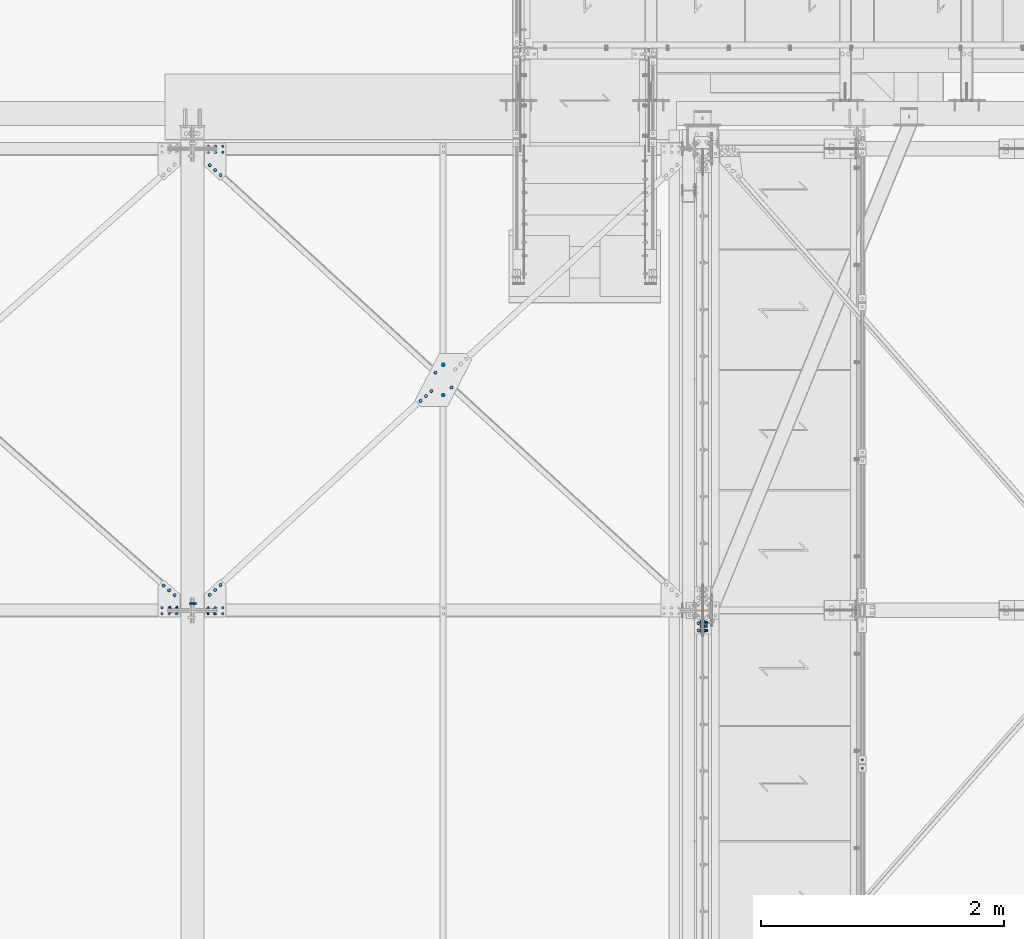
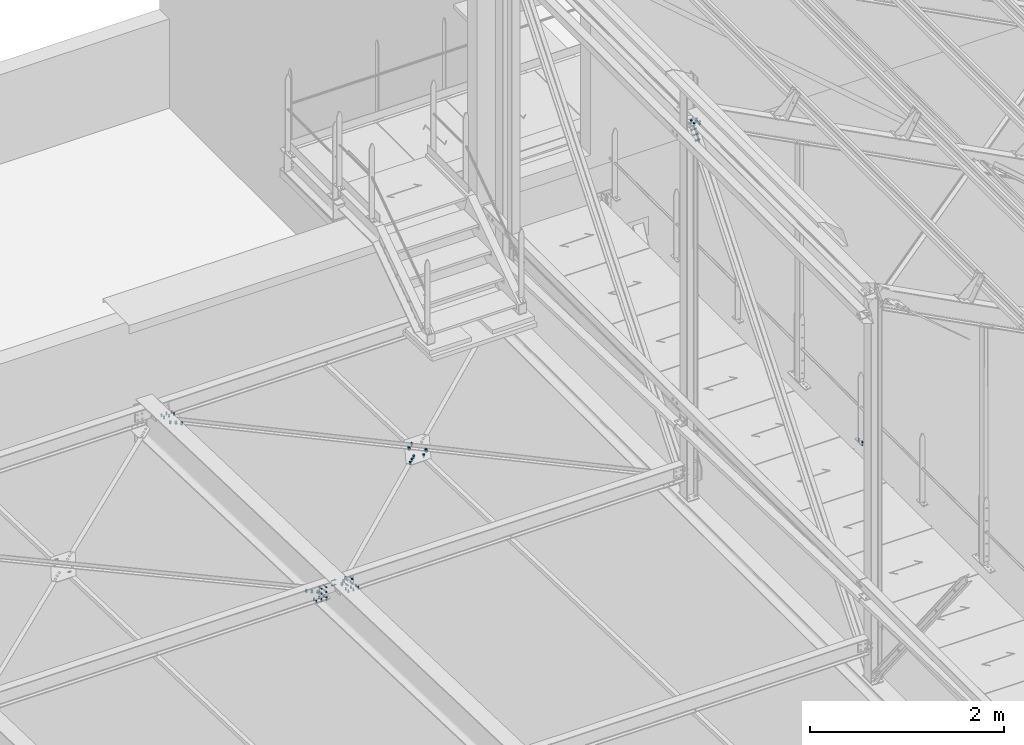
# One storey, part 154 of 362: 15 mechanical fasteners.
"""IFC2X3 building model written with IfcOpenShell, lengths in millimetres."""

import ifcopenshell
import ifcopenshell.guid

model = None  # the IFC model being written
_history = None  # IfcOwnerHistory: only IFC2X3 demands one
_inside = {}  # id of a spatial element -> (the spatial element, [elements in it])
_under = {}  # id of a project, library or spatial element -> (it, [spatial elements below it])
_declared = {}  # id of a project -> (the project, [libraries it declares])
_typed = {}  # id of a type object -> (the type object, [elements of that type])
_made_of = {}  # id of a material, layer set ... -> (it, [elements and type objects made of it])


def new_model(schema):
    """Start an empty IFC model of exactly this schema.

    Asked for "IFC4X3", IfcOpenShell would pick the latest addendum, in which some entities
    have other attributes; the version numbers below select the first issue.
    IFC2X3 requires an IfcOwnerHistory on every rooted entity: one is made here for all.
    """
    global model, _history
    if schema == "IFC4X3":
        model = ifcopenshell.file(schema_version=(4, 3, 0, 0))
    else:
        model = ifcopenshell.file(schema=schema)
    _inside.clear()
    _under.clear()
    _declared.clear()
    _typed.clear()
    _made_of.clear()
    _history = None
    if model.schema == "IFC2X3":
        org = make("IfcOrganization", Name="unknown")
        user = make(
            "IfcPersonAndOrganization",
            ThePerson=make("IfcPerson", FamilyName="unknown"),
            TheOrganization=org,
        )
        app = make(
            "IfcApplication",
            ApplicationDeveloper=org,
            Version="unknown",
            ApplicationFullName="unknown",
            ApplicationIdentifier="unknown",
        )
        _history = make(
            "IfcOwnerHistory",
            OwningUser=user,
            OwningApplication=app,
            ChangeAction="ADDED",
            CreationDate=0,
        )
    return model


def make(cls, **values):
    """One entity of the class cls with the attributes given. An attribute that is None is left unset."""
    return model.create_entity(
        cls, **{name: value for name, value in values.items() if value is not None}
    )


def rooted(cls, **values):
    """An entity with a GlobalId (a new one), such as an element, a storey or a relation."""
    return make(cls, GlobalId=ifcopenshell.guid.new(), OwnerHistory=_history, **values)


def si_unit(unit_type, name, prefix=None):
    """IfcSIUnit, for example si_unit("LENGTHUNIT", "METRE", prefix="MILLI")."""
    return make("IfcSIUnit", UnitType=unit_type, Prefix=prefix, Name=name)


def assignment(units):
    """IfcUnitAssignment: the units of a project."""
    return None if units is None else make("IfcUnitAssignment", Units=units)


def point(xyz):
    """IfcCartesianPoint."""
    return None if xyz is None else make("IfcCartesianPoint", Coordinates=xyz)


def direction(xyz):
    """IfcDirection."""
    return None if xyz is None else make("IfcDirection", DirectionRatios=xyz)


def frame(location, z_axis=None, x_axis=None):
    """IfcAxis2Placement3D, a coordinate frame: its origin and axes. An axis left out is left unset."""
    return make(
        "IfcAxis2Placement3D",
        Location=point(location),
        Axis=direction(z_axis),
        RefDirection=direction(x_axis),
    )


def frame_2d(location, x_axis=None):
    """IfcAxis2Placement2D, a coordinate frame in the plane: its origin and x axis."""
    return make(
        "IfcAxis2Placement2D", Location=point(location), RefDirection=direction(x_axis)
    )


def origin_with_axes():
    """The frame at (0, 0, 0) with the z axis (0, 0, 1) and the x axis (1, 0, 0) written out."""
    return frame((0.0, 0.0, 0.0), z_axis=(0.0, 0.0, 1.0), x_axis=(1.0, 0.0, 0.0))


def origin_2d_with_axis():
    """The frame at (0, 0) in the plane with the x axis (1, 0) written out."""
    return frame_2d((0.0, 0.0), x_axis=(1.0, 0.0))


def place(relative_to, where):
    """IfcLocalPlacement: puts the frame where relative to a parent placement (None: the world)."""
    return make(
        "IfcLocalPlacement", PlacementRelTo=relative_to, RelativePlacement=where
    )


def context(
    kind, dimensions, precision=None, world=None, true_north=None, identifier=None
):
    """IfcGeometricRepresentationContext, for example the 3D "Model" context."""
    return make(
        "IfcGeometricRepresentationContext",
        ContextIdentifier=identifier,
        ContextType=kind,
        CoordinateSpaceDimension=dimensions,
        Precision=precision,
        WorldCoordinateSystem=world,
        TrueNorth=true_north,
    )


def subcontext(parent, identifier, kind, view, scale=None):
    """IfcGeometricRepresentationSubContext, for example "Body" below "Model"."""
    return make(
        "IfcGeometricRepresentationSubContext",
        ContextIdentifier=identifier,
        ContextType=kind,
        ParentContext=parent,
        TargetScale=scale,
        TargetView=view,
    )


def project(units=None, contexts=None):
    """IfcProject with its units and contexts."""
    return rooted(
        "IfcProject",
        Name="project",
        RepresentationContexts=contexts,
        UnitsInContext=assignment(units),
    )


def spatial(cls, under=None, at=None, **own):
    """A site, building, storey or space (cls), placed at a placement, below another one or the project."""
    s = rooted(cls, ObjectPlacement=at, **own)
    if under is not None:
        _under.setdefault(under.id(), (under, []))[1].append(s)
    return s


def polyline(points):
    """IfcPolyline through the points."""
    return make("IfcPolyline", Points=[point(p) for p in points])


def profile(cls, at=None, kind="AREA", **sizes):
    """A parametric profile (cls). Its sizes go by their IFC names, for example OverallWidth=200.0."""
    return make(cls, ProfileType=kind, Position=at, **sizes)


def circle(**sizes):
    """IfcCircleProfileDef."""
    return profile("IfcCircleProfileDef", **sizes)


def outline(outer, holes=None, kind="AREA"):
    """IfcArbitraryClosedProfileDef: a profile drawn as a closed curve; with holes, ...WithVoids."""
    if holes is None:
        return make("IfcArbitraryClosedProfileDef", ProfileType=kind, OuterCurve=outer)
    return make(
        "IfcArbitraryProfileDefWithVoids",
        ProfileType=kind,
        OuterCurve=outer,
        InnerCurves=holes,
    )


def extrude(swept, where, along, depth):
    """IfcExtrudedAreaSolid: the profile swept, set in the frame where, extruded along a direction by depth."""
    return make(
        "IfcExtrudedAreaSolid",
        SweptArea=swept,
        Position=where,
        ExtrudedDirection=direction(along),
        Depth=depth,
    )


def shape(context_of_items, identifier, shape_type, items):
    """IfcShapeRepresentation: the items that make up one representation, for example the "Body"."""
    return make(
        "IfcShapeRepresentation",
        ContextOfItems=context_of_items,
        RepresentationIdentifier=identifier,
        RepresentationType=shape_type,
        Items=items,
    )


def source(mapping_origin, context_of_items, identifier, shape_type, items):
    """IfcRepresentationMap: a shape defined once, which mapped items show again and again."""
    return make(
        "IfcRepresentationMap",
        MappingOrigin=mapping_origin,
        MappedRepresentation=shape(context_of_items, identifier, shape_type, items),
    )


def transform(
    local_origin,
    x_axis=None,
    y_axis=None,
    z_axis=None,
    scale=None,
    scale2=None,
    scale3=None,
    uniform=True,
):
    """IfcCartesianTransformationOperator3D, or its non-uniform kind. x_axis, y_axis, z_axis: its Axis1, 2, 3."""
    if uniform:
        return make(
            "IfcCartesianTransformationOperator3D",
            Axis1=direction(x_axis),
            Axis2=direction(y_axis),
            LocalOrigin=point(local_origin),
            Scale=scale,
            Axis3=direction(z_axis),
        )
    return make(
        "IfcCartesianTransformationOperator3DnonUniform",
        Axis1=direction(x_axis),
        Axis2=direction(y_axis),
        LocalOrigin=point(local_origin),
        Scale=scale,
        Axis3=direction(z_axis),
        Scale2=scale2,
        Scale3=scale3,
    )


def mapped(mapping_source, mapping_target):
    """IfcMappedItem: shows the shape of a source again, moved by a transform."""
    return make(
        "IfcMappedItem", MappingSource=mapping_source, MappingTarget=mapping_target
    )


def material(Name=None, Category=None):
    """IfcMaterial."""
    return make("IfcMaterial", Name=Name, Category=Category)


def made_of(thing, what):
    """Note that an element or type object is made of a material, layer set ...; save() writes the relation."""
    if what is not None:
        _made_of.setdefault(what.id(), (what, []))[1].append(thing)
    return thing


def type_object(cls, material=None, **own):
    """A type object (cls), such as IfcWallType, which elements share."""
    return made_of(rooted(cls, **own), material)


def element(
    cls,
    number,
    at=None,
    inside=None,
    cuts=None,
    type_object=None,
    material=None,
    context=None,
    identifier="Body",
    shape_type=None,
    held_by="IfcProductDefinitionShape",
    body=None,
    shapes=None,
    **own,
):
    """One element of the class cls, such as IfcWall. Its Tag is "e" and its number.

    at: its placement. inside: the storey or other place that contains it. cuts: it is an
    opening in that element (IfcRelVoidsElement). A single representation is given by context,
    identifier, shape_type and body (its items); several are given by shapes. held_by: the class
    of the entity that holds the representations. save() writes the other relations.
    """
    e = rooted(cls, Tag="e%d" % number, ObjectPlacement=at, **own)
    if body is not None:
        shapes = [shape(context, identifier, shape_type, body)]
    if shapes is not None:
        e.Representation = make(held_by, Representations=shapes)
    if inside is not None:
        _inside.setdefault(inside.id(), (inside, []))[1].append(e)
    if cuts is not None:
        rooted(
            "IfcRelVoidsElement", RelatingBuildingElement=cuts, RelatedOpeningElement=e
        )
    if type_object is not None:
        _typed.setdefault(type_object.id(), (type_object, []))[1].append(e)
    return made_of(e, material)


def aggregate(whole, parts):
    """IfcRelAggregates: a whole, such as a stair, and the parts it consists of."""
    return rooted("IfcRelAggregates", RelatingObject=whole, RelatedObjects=parts)


def save(model, path):
    """Write the relations noted so far, then the file.

    IfcRelAggregates (storeys below a building ...), IfcRelContainedInSpatialStructure (elements
    in a storey), IfcRelDefinesByType, IfcRelAssociatesMaterial and IfcRelDeclares: one each for
    every whole, place, type object, material and project.
    """
    for whole, parts in _under.values():
        aggregate(whole, parts)
    for where, things in _inside.values():
        rooted(
            "IfcRelContainedInSpatialStructure",
            RelatedElements=things,
            RelatingStructure=where,
        )
    for kind, things in _typed.values():
        rooted("IfcRelDefinesByType", RelatedObjects=things, RelatingType=kind)
    for what, things in _made_of.values():
        rooted("IfcRelAssociatesMaterial", RelatedObjects=things, RelatingMaterial=what)
    for by, libraries in _declared.values():
        rooted("IfcRelDeclares", RelatingContext=by, RelatedDefinitions=libraries)
    model.write(path)


model = new_model("IFC2X3")

# Units and contexts
model_context = context("Model", 3, precision=1e-05, world=origin_with_axes())
body_context = subcontext(model_context, "Body", "Model", "MODEL_VIEW")
ifc_project = project(units=[si_unit("LENGTHUNIT", "METRE", prefix="MILLI"), si_unit("AREAUNIT", "SQUARE_METRE"), si_unit("VOLUMEUNIT", "CUBIC_METRE"), si_unit("MASSUNIT", "GRAM", prefix="KILO"), si_unit("TIMEUNIT", "SECOND"), si_unit("PLANEANGLEUNIT", "RADIAN"), si_unit("SOLIDANGLEUNIT", "STERADIAN"), si_unit("THERMODYNAMICTEMPERATUREUNIT", "DEGREE_CELSIUS"), si_unit("LUMINOUSINTENSITYUNIT", "LUMEN")], contexts=[model_context])

# Site, building, storey
site_placement = place(None, origin_with_axes())
site = spatial("IfcSite", under=ifc_project, at=site_placement, Name="Undefined", CompositionType="ELEMENT")
building_placement = place(site_placement, origin_with_axes())
building = spatial("IfcBuilding", under=site, at=building_placement, Name="Undefined", CompositionType="ELEMENT")
storey_placement = place(building_placement, origin_with_axes())
storey = spatial("IfcBuildingStorey", under=building, at=storey_placement, Name="Undefined", CompositionType="ELEMENT", Elevation=0.0)

# Mechanical fasteners
ifc_material = material(Name="8.8-SB-ZINGUE")
mechanical_fastener_type = type_object("IfcMechanicalFastenerType", Name="Bolt assembly")
shared_shape_1 = source(origin_with_axes(), body_context, "Body", "SweptSolid", [
    extrude(circle(Radius=9.0, at=origin_2d_with_axis()), frame((0.0, -10.9000000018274, 0.0), z_axis=(0.0, 1.0, 0.0), x_axis=(1.0, 0.0, 0.0)), (0.0, 0.0, 1.0), 6.0),
    extrude(circle(Radius=9.0, at=origin_2d_with_axis()), frame((0.0, 4.9000000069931, 0.0), z_axis=(0.0, 1.0, 0.0), x_axis=(1.0, 0.0, 0.0)), (0.0, 0.0, 1.0), 6.1),
    extrude(circle(Radius=9.0, at=origin_2d_with_axis()), frame((0.0, -3.99999923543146, 0.0), z_axis=(0.0, 1.0, 0.0), x_axis=(1.0, 0.0, 0.0)), (0.0, 0.0, 1.0), 8.0),
    extrude(outline(polyline([(13.85640646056, 0.0), (6.92820323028, 12.0000000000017), (-6.92820323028, 12.0000000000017), (-13.85640646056, 0.0), (-6.92820323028, -12.0000000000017), (6.92820323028, -12.0000000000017), (13.85640646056, 0.0)])), frame((0.0, -21.5600000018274, 0.0), z_axis=(0.0, 1.0, 0.0), x_axis=(1.0, 0.0, 0.0)), (0.0, 0.0, 1.0), 10.56),
    extrude(circle(Radius=8.0, at=origin_2d_with_axis()), frame((0.0, -11.0000000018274, 0.0), z_axis=(0.0, 1.0, 0.0), x_axis=(1.0, 0.0, 0.0)), (0.0, 0.0, 1.0), 50.0),
    extrude(outline(polyline([(15.3344231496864, 0.0), (7.6672115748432, 13.2800000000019), (-7.6672115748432, 13.2800000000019), (-15.3344231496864, 0.0), (-7.6672115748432, -13.2800000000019), (7.6672115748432, -13.2800000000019), (15.3344231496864, 0.0)])), frame((0.0, 11.0000000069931, 0.0), z_axis=(0.0, 1.0, 0.0), x_axis=(1.0, 0.0, 0.0)), (0.0, 0.0, 1.0), 10.56),
])
mechanical_fastener_1_placement = place(storey_placement, frame((12680.0, 11306.7393709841, 11919.5161497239), z_axis=(0.0, -0.783225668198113, 0.621737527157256), x_axis=(0.0, -0.621737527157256, -0.783225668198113)))
element("IfcMechanicalFastener", 1, at=mechanical_fastener_1_placement, inside=storey, type_object=mechanical_fastener_type, material=ifc_material, Name="Bolt assembly", NominalDiameter=16.0, NominalLength=50.0, context=body_context, shape_type="MappedRepresentation", body=[
    mapped(shared_shape_1, transform((0.0, 0.0, 0.0))),
    mapped(shared_shape_1, transform((60.0, 0.0, 0.0))),
    mapped(shared_shape_1, transform((120.0, 0.0, 0.0))),
])
shared_shape_2 = source(origin_with_axes(), body_context, "Body", "SweptSolid", [
    extrude(circle(Radius=9.0, at=origin_2d_with_axis()), frame((0.0, -4.89677993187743, 0.0), z_axis=(0.0, 1.0, 0.0), x_axis=(1.0, 0.0, 0.0)), (0.0, 0.0, 1.0), 5.0),
    extrude(circle(Radius=9.0, at=origin_2d_with_axis()), frame((0.0, -0.100011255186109, 0.0), z_axis=(0.0, 1.0, 0.0), x_axis=(1.0, 0.0, 0.0)), (0.0, 0.0, 1.0), 6.1),
    extrude(outline(polyline([(13.85640646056, 0.0), (6.92820323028, 12.0000000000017), (-6.92820323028, 12.0000000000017), (-13.85640646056, 0.0), (-6.92820323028, -12.0000000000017), (6.92820323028, -12.0000000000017), (13.85640646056, 0.0)])), frame((0.0, -15.5567799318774, 0.0), z_axis=(0.0, 1.0, 0.0), x_axis=(1.0, 0.0, 0.0)), (0.0, 0.0, 1.0), 10.56),
    extrude(circle(Radius=8.0, at=origin_2d_with_axis()), frame((0.0, -4.99677993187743, 0.0), z_axis=(0.0, 1.0, 0.0), x_axis=(1.0, 0.0, 0.0)), (0.0, 0.0, 1.0), 30.0),
    extrude(outline(polyline([(15.3344231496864, 0.0), (7.6672115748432, 13.2800000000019), (-7.6672115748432, 13.2800000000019), (-15.3344231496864, 0.0), (-7.6672115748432, -13.2800000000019), (7.6672115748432, -13.2800000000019), (15.3344231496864, 0.0)])), frame((0.0, 6.0, 0.0), z_axis=(0.0, 1.0, 0.0), x_axis=(1.0, 0.0, 0.0)), (0.0, 0.0, 1.0), 10.56),
])
mechanical_fastener_2_placement = place(storey_placement, frame((8333.90852928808, 11525.9582901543, 7487.68503665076), z_axis=(-0.662411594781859, -0.748770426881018, 0.023531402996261), x_axis=(-0.749140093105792, 0.662084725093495, -0.0208071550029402)))
element("IfcMechanicalFastener", 2, at=mechanical_fastener_2_placement, inside=storey, type_object=mechanical_fastener_type, material=ifc_material, Name="Bolt assembly", NominalDiameter=16.0, NominalLength=30.0, context=body_context, shape_type="MappedRepresentation", body=[
    mapped(shared_shape_2, transform((0.0, 0.0, 0.0))),
    mapped(shared_shape_2, transform((60.0, 0.0, 0.0))),
    mapped(shared_shape_2, transform((120.0, 0.0, 0.0))),
])
shared_shape_3 = source(origin_with_axes(), body_context, "Body", "SweptSolid", [
    extrude(circle(Radius=7.0, at=origin_2d_with_axis()), frame((0.0, -8.3982731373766, 0.0), z_axis=(0.0, 1.0, 0.0), x_axis=(1.0, 0.0, 0.0)), (0.0, 0.0, 1.0), 8.5),
    extrude(circle(Radius=7.0, at=origin_2d_with_axis()), frame((0.0, -0.100011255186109, 0.0), z_axis=(0.0, 1.0, 0.0), x_axis=(1.0, 0.0, 0.0)), (0.0, 0.0, 1.0), 6.1),
    extrude(outline(polyline([(10.39230484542, 0.0), (5.19615242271, 9.00000000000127), (-5.19615242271, 9.00000000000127), (-10.39230484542, 0.0), (-5.19615242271, -9.00000000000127), (5.19615242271, -9.00000000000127), (10.39230484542, 0.0)])), frame((0.0, -16.4182731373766, 0.0), z_axis=(0.0, 1.0, 0.0), x_axis=(1.0, 0.0, 0.0)), (0.0, 0.0, 1.0), 7.92),
    extrude(circle(Radius=6.0, at=origin_2d_with_axis()), frame((0.0, -8.4982731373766, 0.0), z_axis=(0.0, 1.0, 0.0), x_axis=(1.0, 0.0, 0.0)), (0.0, 0.0, 1.0), 30.0),
    extrude(outline(polyline([(11.5008173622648, 0.0), (5.7504086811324, 9.96000000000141), (-5.7504086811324, 9.96000000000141), (-11.5008173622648, 0.0), (-5.7504086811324, -9.96000000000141), (5.7504086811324, -9.96000000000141), (11.5008173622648, 0.0)])), frame((0.0, 6.0, 0.0), z_axis=(0.0, 1.0, 0.0), x_axis=(1.0, 0.0, 0.0)), (0.0, 0.0, 1.0), 7.92),
])
mechanical_fastener_3_placement = place(storey_placement, frame((8610.0000069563, 11396.8549319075, 7491.74233248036), z_axis=(3.14103090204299e-11, 0.999506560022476, -0.0314107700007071), x_axis=(1.0, 0.0, 0.0)))
element("IfcMechanicalFastener", 3, at=mechanical_fastener_3_placement, inside=storey, type_object=mechanical_fastener_type, material=ifc_material, Name="Bolt assembly", NominalDiameter=12.0, NominalLength=30.0, context=body_context, shape_type="MappedRepresentation", body=[
    mapped(shared_shape_3, transform((0.0, 0.0, -25.0))),
    mapped(shared_shape_3, transform((59.9999999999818, -8.18545231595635e-12, -25.0000000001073))),
    mapped(shared_shape_3, transform((119.999999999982, -1.72803993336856e-11, -25.0000000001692))),
    mapped(shared_shape_3, transform((0.0, 0.0, 25.0))),
    mapped(shared_shape_3, transform((60.00000000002, -1.00044417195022e-11, 24.9999999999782))),
    mapped(shared_shape_3, transform((120.00000000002, -1.90993887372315e-11, 24.9999999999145))),
])
shared_shape_4 = source(origin_with_axes(), body_context, "Body", "SweptSolid", [
    extrude(circle(Radius=7.0, at=origin_2d_with_axis()), frame((0.0, -8.40001950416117, 0.0), z_axis=(0.0, 1.0, 0.0), x_axis=(1.0, 0.0, 0.0)), (0.0, 0.0, 1.0), 8.5),
    extrude(circle(Radius=7.0, at=origin_2d_with_axis()), frame((0.0, -0.100011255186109, 0.0), z_axis=(0.0, 1.0, 0.0), x_axis=(1.0, 0.0, 0.0)), (0.0, 0.0, 1.0), 6.1),
    extrude(outline(polyline([(10.39230484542, 0.0), (5.19615242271, 9.00000000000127), (-5.19615242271, 9.00000000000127), (-10.39230484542, 0.0), (-5.19615242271, -9.00000000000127), (5.19615242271, -9.00000000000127), (10.39230484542, 0.0)])), frame((0.0, -16.4200195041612, 0.0), z_axis=(0.0, 1.0, 0.0), x_axis=(1.0, 0.0, 0.0)), (0.0, 0.0, 1.0), 7.92),
    extrude(circle(Radius=6.0, at=origin_2d_with_axis()), frame((0.0, -8.5, 0.0), z_axis=(0.0, 1.0, 0.0), x_axis=(1.0, 0.0, 0.0)), (0.0, 0.0, 1.0), 30.0),
    extrude(outline(polyline([(11.5008173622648, 0.0), (5.7504086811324, 9.96000000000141), (-5.7504086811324, 9.96000000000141), (-11.5008173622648, 0.0), (-5.7504086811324, -9.96000000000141), (5.7504086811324, -9.96000000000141), (11.5008173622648, 0.0)])), frame((0.0, 6.0, 0.0), z_axis=(0.0, 1.0, 0.0), x_axis=(1.0, 0.0, 0.0)), (0.0, 0.0, 1.0), 7.92),
])
mechanical_fastener_4_placement = place(storey_placement, frame((8610.0000069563, 15196.8588775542, 7372.32065103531), z_axis=(3.14103090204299e-11, 0.999506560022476, -0.0314107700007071), x_axis=(1.0, 0.0, 0.0)))
element("IfcMechanicalFastener", 4, at=mechanical_fastener_4_placement, inside=storey, type_object=mechanical_fastener_type, material=ifc_material, Name="Bolt assembly", NominalDiameter=12.0, NominalLength=30.0, context=body_context, shape_type="MappedRepresentation", body=[
    mapped(shared_shape_4, transform((0.0, 0.0, 25.0))),
    mapped(shared_shape_4, transform((60.00000000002, -1.00044417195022e-11, 24.9999999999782))),
    mapped(shared_shape_4, transform((120.00000000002, -1.90993887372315e-11, 24.9999999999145))),
    mapped(shared_shape_4, transform((0.0, 0.0, -25.0))),
    mapped(shared_shape_4, transform((59.9999999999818, -8.18545231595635e-12, -25.0000000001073))),
    mapped(shared_shape_4, transform((119.999999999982, -1.72803993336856e-11, -25.0000000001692))),
])
shared_shape_5 = source(origin_with_axes(), body_context, "Body", "SweptSolid", [
    extrude(circle(Radius=9.0, at=origin_2d_with_axis()), frame((0.0, 5.90507997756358, 0.0), z_axis=(0.0, 1.0, 0.0), x_axis=(1.0, 0.0, 0.0)), (0.0, 0.0, 1.0), 5.1),
    extrude(circle(Radius=9.0, at=origin_2d_with_axis()), frame((0.0, 0.1, 0.0), z_axis=(0.0, 1.0, 0.0), x_axis=(1.0, 0.0, 0.0)), (0.0, 0.0, 1.0), 6.0),
    extrude(outline(polyline([(13.85640646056, 0.0), (6.92820323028, 12.0000000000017), (-6.92820323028, 12.0000000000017), (-13.85640646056, 0.0), (-6.92820323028, -12.0000000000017), (6.92820323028, -12.0000000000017), (13.85640646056, 0.0)])), frame((0.0, -10.5600019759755, 0.0), z_axis=(0.0, 1.0, 0.0), x_axis=(1.0, 0.0, 0.0)), (0.0, 0.0, 1.0), 10.56),
    extrude(circle(Radius=8.0, at=origin_2d_with_axis()), frame((0.0, 0.0, 0.0), z_axis=(0.0, 1.0, 0.0), x_axis=(1.0, 0.0, 0.0)), (0.0, 0.0, 1.0), 30.0),
    extrude(outline(polyline([(15.3344231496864, 0.0), (7.6672115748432, 13.2800000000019), (-7.6672115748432, 13.2800000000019), (-15.3344231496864, 0.0), (-7.6672115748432, -13.2800000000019), (7.6672115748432, -13.2800000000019), (15.3344231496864, 0.0)])), frame((0.0, 11.005079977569, 0.0), z_axis=(0.0, 1.0, 0.0), x_axis=(1.0, 0.0, 0.0)), (0.0, 0.0, 1.0), 10.56),
])
mechanical_fastener_5_placement = place(storey_placement, frame((8623.52764296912, 11528.8000645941, 7487.59572898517), z_axis=(-0.676965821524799, 0.735651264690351, -0.0231191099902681), x_axis=(0.736014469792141, 0.67663175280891, -0.0212643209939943)))
element("IfcMechanicalFastener", 5, at=mechanical_fastener_5_placement, inside=storey, type_object=mechanical_fastener_type, material=ifc_material, Name="Bolt assembly", NominalDiameter=16.0, NominalLength=30.0, context=body_context, shape_type="MappedRepresentation", body=[
    mapped(shared_shape_5, transform((0.0, 0.0, 0.0))),
    mapped(shared_shape_5, transform((60.0, 0.0, 0.0))),
    mapped(shared_shape_5, transform((120.0, 0.0, 0.0))),
])
shared_shape_6 = source(origin_with_axes(), body_context, "Body", "SweptSolid", [
    extrude(circle(Radius=9.0, at=origin_2d_with_axis()), frame((0.0, -4.90436916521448, 0.0), z_axis=(0.0, 1.0, 0.0), x_axis=(1.0, 0.0, 0.0)), (0.0, 0.0, 1.0), 5.0),
    extrude(circle(Radius=9.0, at=origin_2d_with_axis()), frame((0.0, -0.100011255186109, 0.0), z_axis=(0.0, 1.0, 0.0), x_axis=(1.0, 0.0, 0.0)), (0.0, 0.0, 1.0), 6.1),
    extrude(outline(polyline([(13.85640646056, 0.0), (6.92820323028, 12.0000000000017), (-6.92820323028, 12.0000000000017), (-13.85640646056, 0.0), (-6.92820323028, -12.0000000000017), (6.92820323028, -12.0000000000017), (13.85640646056, 0.0)])), frame((0.0, -15.5643691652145, 0.0), z_axis=(0.0, 1.0, 0.0), x_axis=(1.0, 0.0, 0.0)), (0.0, 0.0, 1.0), 10.56),
    extrude(circle(Radius=8.0, at=origin_2d_with_axis()), frame((0.0, -5.00436916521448, 0.0), z_axis=(0.0, 1.0, 0.0), x_axis=(1.0, 0.0, 0.0)), (0.0, 0.0, 1.0), 30.0),
    extrude(outline(polyline([(15.3344231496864, 0.0), (7.6672115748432, 13.2800000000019), (-7.6672115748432, 13.2800000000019), (-15.3344231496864, 0.0), (-7.6672115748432, -13.2800000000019), (7.6672115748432, -13.2800000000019), (15.3344231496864, 0.0)])), frame((0.0, 6.0, 0.0), z_axis=(0.0, 1.0, 0.0), x_axis=(1.0, 0.0, 0.0)), (0.0, 0.0, 1.0), 10.56),
])
mechanical_fastener_6_placement = place(storey_placement, frame((8623.52764296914, 15064.9137448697, 7376.46725450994), z_axis=(0.676965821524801, 0.735651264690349, -0.0231191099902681), x_axis=(0.736014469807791, -0.6766317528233, 0.021264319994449)))
element("IfcMechanicalFastener", 6, at=mechanical_fastener_6_placement, inside=storey, type_object=mechanical_fastener_type, material=ifc_material, Name="Bolt assembly", NominalDiameter=16.0, NominalLength=30.0, context=body_context, shape_type="MappedRepresentation", body=[
    mapped(shared_shape_6, transform((0.0, 0.0, 0.0))),
    mapped(shared_shape_6, transform((60.0, 0.0, 0.0))),
    mapped(shared_shape_6, transform((120.0, 0.0, 0.0))),
])
shared_shape_7 = source(origin_with_axes(), body_context, "Body", "SweptSolid", [
    extrude(circle(Radius=9.0, at=origin_2d_with_axis()), frame((0.0, 5.90148125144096, 0.0), z_axis=(0.0, 1.0, 0.0), x_axis=(1.0, 0.0, 0.0)), (0.0, 0.0, 1.0), 5.1),
    extrude(circle(Radius=9.0, at=origin_2d_with_axis()), frame((0.0, 0.1, 0.0), z_axis=(0.0, 1.0, 0.0), x_axis=(1.0, 0.0, 0.0)), (0.0, 0.0, 1.0), 6.0),
    extrude(outline(polyline([(13.85640646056, 0.0), (6.92820323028, 12.0000000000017), (-6.92820323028, 12.0000000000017), (-13.85640646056, 0.0), (-6.92820323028, -12.0000000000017), (6.92820323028, -12.0000000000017), (13.85640646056, 0.0)])), frame((0.0, -10.5600019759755, 0.0), z_axis=(0.0, 1.0, 0.0), x_axis=(1.0, 0.0, 0.0)), (0.0, 0.0, 1.0), 10.56),
    extrude(circle(Radius=8.0, at=origin_2d_with_axis()), frame((0.0, 0.0, 0.0), z_axis=(0.0, 1.0, 0.0), x_axis=(1.0, 0.0, 0.0)), (0.0, 0.0, 1.0), 30.0),
    extrude(outline(polyline([(15.3344231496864, 0.0), (7.6672115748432, 13.2800000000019), (-7.6672115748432, 13.2800000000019), (-15.3344231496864, 0.0), (-7.6672115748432, -13.2800000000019), (7.6672115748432, -13.2800000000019), (15.3344231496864, 0.0)])), frame((0.0, 11.0014812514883, 0.0), z_axis=(0.0, 1.0, 0.0), x_axis=(1.0, 0.0, 0.0)), (0.0, 0.0, 1.0), 10.56),
])
mechanical_fastener_7_placement = place(storey_placement, frame((10447.3880891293, 13205.514443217, 7434.90208622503), z_axis=(0.676965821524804, -0.735651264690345, 0.0231191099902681), x_axis=(-0.73601445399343, -0.676631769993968, 0.021264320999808)))
element("IfcMechanicalFastener", 7, at=mechanical_fastener_7_placement, inside=storey, type_object=mechanical_fastener_type, material=ifc_material, Name="Bolt assembly", NominalDiameter=16.0, NominalLength=30.0, context=body_context, shape_type="MappedRepresentation", body=[
    mapped(shared_shape_7, transform((0.0, 0.0, 0.0))),
    mapped(shared_shape_7, transform((60.0, 0.0, 0.0))),
    mapped(shared_shape_7, transform((120.0, 0.0, 0.0))),
])
shared_shape_8 = source(origin_with_axes(), body_context, "Body", "SweptSolid", [
    extrude(circle(Radius=7.0, at=origin_2d_with_axis()), frame((0.0, -8.39654616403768, 0.0), z_axis=(0.0, 1.0, 0.0), x_axis=(1.0, 0.0, 0.0)), (0.0, 0.0, 1.0), 8.5),
    extrude(circle(Radius=7.0, at=origin_2d_with_axis()), frame((0.0, -0.100011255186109, 0.0), z_axis=(0.0, 1.0, 0.0), x_axis=(1.0, 0.0, 0.0)), (0.0, 0.0, 1.0), 6.1),
    extrude(outline(polyline([(10.39230484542, 0.0), (5.19615242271, 9.00000000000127), (-5.19615242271, 9.00000000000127), (-10.39230484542, 0.0), (-5.19615242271, -9.00000000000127), (5.19615242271, -9.00000000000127), (10.39230484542, 0.0)])), frame((0.0, -16.4165461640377, 0.0), z_axis=(0.0, 1.0, 0.0), x_axis=(1.0, 0.0, 0.0)), (0.0, 0.0, 1.0), 7.92),
    extrude(circle(Radius=6.0, at=origin_2d_with_axis()), frame((0.0, -8.49654616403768, 0.0), z_axis=(0.0, 1.0, 0.0), x_axis=(1.0, 0.0, 0.0)), (0.0, 0.0, 1.0), 30.0),
    extrude(outline(polyline([(11.5008173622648, 0.0), (5.7504086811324, 9.96000000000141), (-5.7504086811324, 9.96000000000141), (-11.5008173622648, 0.0), (-5.7504086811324, -9.96000000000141), (5.7504086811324, -9.96000000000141), (11.5008173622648, 0.0)])), frame((0.0, 6.0, 0.0), z_axis=(0.0, 1.0, 0.0), x_axis=(1.0, 0.0, 0.0)), (0.0, 0.0, 1.0), 7.92),
])
mechanical_fastener_8_placement = place(storey_placement, frame((8349.9999930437, 11396.8549319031, 7491.74233245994), z_axis=(0.0, -0.999506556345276, 0.031410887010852), x_axis=(-1.0, 0.0, 0.0)))
element("IfcMechanicalFastener", 8, at=mechanical_fastener_8_placement, inside=storey, type_object=mechanical_fastener_type, material=ifc_material, Name="Bolt assembly", NominalDiameter=12.0, NominalLength=30.0, context=body_context, shape_type="MappedRepresentation", body=[
    mapped(shared_shape_8, transform((0.0, 0.0, 25.0))),
    mapped(shared_shape_8, transform((60.00000000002, -1.00044417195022e-11, 24.9999999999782))),
    mapped(shared_shape_8, transform((120.00000000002, -1.90993887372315e-11, 24.9999999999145))),
    mapped(shared_shape_8, transform((0.0, 0.0, -25.0))),
    mapped(shared_shape_8, transform((59.9999999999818, -8.18545231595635e-12, -25.0000000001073))),
    mapped(shared_shape_8, transform((119.999999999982, -1.72803993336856e-11, -25.0000000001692))),
])
shared_shape_9 = source(origin_with_axes(), body_context, "Body", "SweptSolid", [
    extrude(circle(Radius=9.0, at=origin_2d_with_axis()), frame((0.0, -4.90044380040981, 0.0), z_axis=(0.0, 1.0, 0.0), x_axis=(1.0, 0.0, 0.0)), (0.0, 0.0, 1.0), 5.0),
    extrude(circle(Radius=9.0, at=origin_2d_with_axis()), frame((0.0, -0.100011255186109, 0.0), z_axis=(0.0, 1.0, 0.0), x_axis=(1.0, 0.0, 0.0)), (0.0, 0.0, 1.0), 6.1),
    extrude(outline(polyline([(13.85640646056, 0.0), (6.92820323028, 12.0000000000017), (-6.92820323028, 12.0000000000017), (-13.85640646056, 0.0), (-6.92820323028, -12.0000000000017), (6.92820323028, -12.0000000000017), (13.85640646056, 0.0)])), frame((0.0, -15.5604438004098, 0.0), z_axis=(0.0, 1.0, 0.0), x_axis=(1.0, 0.0, 0.0)), (0.0, 0.0, 1.0), 10.56),
    extrude(circle(Radius=8.0, at=origin_2d_with_axis()), frame((0.0, -5.00044380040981, 0.0), z_axis=(0.0, 1.0, 0.0), x_axis=(1.0, 0.0, 0.0)), (0.0, 0.0, 1.0), 30.0),
    extrude(outline(polyline([(15.3344231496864, 0.0), (7.6672115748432, 13.2800000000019), (-7.6672115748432, 13.2800000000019), (-15.3344231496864, 0.0), (-7.6672115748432, -13.2800000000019), (7.6672115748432, -13.2800000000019), (15.3344231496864, 0.0)])), frame((0.0, 6.0, 0.0), z_axis=(0.0, 1.0, 0.0), x_axis=(1.0, 0.0, 0.0)), (0.0, 0.0, 1.0), 10.56),
])
mechanical_fastener_9_placement = place(storey_placement, frame((10546.7499999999, 13296.8569047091, 7432.0314917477), z_axis=(-0.735977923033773, 0.676671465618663, -0.0212655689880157), x_axis=(0.677005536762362, 0.735614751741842, -0.0231179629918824)))
element("IfcMechanicalFastener", 9, at=mechanical_fastener_9_placement, inside=storey, type_object=mechanical_fastener_type, material=ifc_material, Name="Bolt assembly", NominalDiameter=16.0, NominalLength=30.0, context=body_context, shape_type="MappedRepresentation", body=[
    mapped(shared_shape_9, transform((-8.00355337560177e-11, 1.57342583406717e-10, -90.000000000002))),
    mapped(shared_shape_9, transform((8.36735125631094e-11, -1.5825207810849e-10, 90.0))),
])
shared_shape_10 = source(origin_with_axes(), body_context, "Body", "SweptSolid", [
    extrude(circle(Radius=7.0, at=origin_2d_with_axis()), frame((0.0, -0.0999426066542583, 0.0), z_axis=(0.0, 1.0, 0.0), x_axis=(1.0, 0.0, 0.0)), (0.0, 0.0, 1.0), 5.1),
    extrude(circle(Radius=7.0, at=origin_2d_with_axis()), frame((0.0, 0.100057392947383, 0.0), z_axis=(0.0, 1.0, 0.0), x_axis=(1.0, 0.0, 0.0)), (0.0, 0.0, 1.0), 6.0),
    extrude(outline(polyline([(10.39230484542, 0.0), (5.19615242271, 9.00000000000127), (-5.19615242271, 9.00000000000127), (-10.39230484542, 0.0), (-5.19615242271, -9.00000000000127), (5.19615242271, -9.00000000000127), (10.39230484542, 0.0)])), frame((0.0, -7.91994260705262, 0.0), z_axis=(0.0, 1.0, 0.0), x_axis=(1.0, 0.0, 0.0)), (0.0, 0.0, 1.0), 7.92),
    extrude(circle(Radius=6.0, at=origin_2d_with_axis()), frame((0.0, 6.26397177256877e-05, 0.0), z_axis=(0.0, 1.0, 0.0), x_axis=(1.0, 0.0, 0.0)), (0.0, 0.0, 1.0), 30.0),
    extrude(outline(polyline([(11.5008173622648, 0.0), (5.7504086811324, 9.96000000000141), (-5.7504086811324, 9.96000000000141), (-11.5008173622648, 0.0), (-5.7504086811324, -9.96000000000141), (5.7504086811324, -9.96000000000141), (11.5008173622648, 0.0)])), frame((0.0, 6.00005739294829, 0.0), z_axis=(0.0, 1.0, 0.0), x_axis=(1.0, 0.0, 0.0)), (0.0, 0.0, 1.0), 7.92),
])
mechanical_fastener_10_placement = place(storey_placement, frame((10546.7500739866, 13296.8585640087, 7432.03143959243), z_axis=(0.0, -0.999506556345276, 0.031410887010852), x_axis=(-1.0, 0.0, 0.0)))
element("IfcMechanicalFastener", 10, at=mechanical_fastener_10_placement, inside=storey, type_object=mechanical_fastener_type, material=ifc_material, Name="Bolt assembly", NominalDiameter=12.0, NominalLength=30.0, context=body_context, shape_type="MappedRepresentation", body=[
    mapped(shared_shape_10, transform((0.0, -1.17324816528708e-10, -124.999999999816))),
    mapped(shared_shape_10, transform((0.0, 1.17324816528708e-10, 124.999999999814))),
])
shared_shape_11 = source(origin_with_axes(), body_context, "Body", "SweptSolid", [
    extrude(circle(Radius=7.0, at=origin_2d_with_axis()), frame((0.0, -10.0000010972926, 0.0), z_axis=(0.0, 1.0, 0.0), x_axis=(1.0, 0.0, 0.0)), (0.0, 0.0, 1.0), 10.1),
    extrude(outline(polyline([(10.39230484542, 0.0), (5.19615242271, 9.00000000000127), (-5.19615242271, 9.00000000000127), (-10.39230484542, 0.0), (-5.19615242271, -9.00000000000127), (5.19615242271, -9.00000000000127), (10.39230484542, 0.0)])), frame((0.0, -17.92, 0.0), z_axis=(0.0, 1.0, 0.0), x_axis=(1.0, 0.0, 0.0)), (0.0, 0.0, 1.0), 7.92),
    extrude(circle(Radius=6.0, at=origin_2d_with_axis()), frame((0.0, -10.0000010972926, 0.0), z_axis=(0.0, 1.0, 0.0), x_axis=(1.0, 0.0, 0.0)), (0.0, 0.0, 1.0), 40.0),
    extrude(outline(polyline([(11.5008173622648, 0.0), (5.7504086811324, 9.96000000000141), (-5.7504086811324, 9.96000000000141), (-11.5008173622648, 0.0), (-5.7504086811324, -9.96000000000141), (5.7504086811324, -9.96000000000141), (11.5008173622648, 0.0)])), frame((0.0, 0.0, 0.0), z_axis=(0.0, 1.0, 0.0), x_axis=(1.0, 0.0, 0.0)), (0.0, 0.0, 1.0), 7.92),
])
mechanical_fastener_11_placement = place(storey_placement, frame((13993.9998899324, 10100.0034471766, 8240.00000015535), z_axis=(-1.0, 0.0, 0.0), x_axis=(0.0, 1.0, 0.0)))
element("IfcMechanicalFastener", 11, at=mechanical_fastener_11_placement, inside=storey, type_object=mechanical_fastener_type, material=ifc_material, Name="Bolt assembly", NominalDiameter=12.0, NominalLength=40.0, context=body_context, shape_type="MappedRepresentation", body=[
    mapped(shared_shape_11, transform((0.0, 0.0, 0.0))),
    mapped(shared_shape_11, transform((70.0, -2.91038304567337e-11, 2.18278728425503e-10))),
])
shared_shape_12 = source(origin_with_axes(), body_context, "Body", "SweptSolid", [
    extrude(circle(Radius=7.0, at=origin_2d_with_axis()), frame((0.0, -4.69999899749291, 0.0), z_axis=(0.0, 1.0, 0.0), x_axis=(1.0, 0.0, 0.0)), (0.0, 0.0, 1.0), 9.4),
    extrude(circle(Radius=7.0, at=origin_2d_with_axis()), frame((0.0, 4.9000000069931, 0.0), z_axis=(0.0, 1.0, 0.0), x_axis=(1.0, 0.0, 0.0)), (0.0, 0.0, 1.0), 10.1),
    extrude(circle(Radius=7.0, at=origin_2d_with_axis()), frame((0.0, -14.899999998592, 0.0), z_axis=(0.0, 1.0, 0.0), x_axis=(1.0, 0.0, 0.0)), (0.0, 0.0, 1.0), 10.0),
    extrude(outline(polyline([(10.39230484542, 0.0), (5.19615242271, 9.00000000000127), (-5.19615242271, 9.00000000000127), (-10.39230484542, 0.0), (-5.19615242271, -9.00000000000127), (5.19615242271, -9.00000000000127), (10.39230484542, 0.0)])), frame((0.0, -22.919999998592, 0.0), z_axis=(0.0, 1.0, 0.0), x_axis=(1.0, 0.0, 0.0)), (0.0, 0.0, 1.0), 7.92),
    extrude(circle(Radius=6.0, at=origin_2d_with_axis()), frame((0.0, -14.999999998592, 0.0), z_axis=(0.0, 1.0, 0.0), x_axis=(1.0, 0.0, 0.0)), (0.0, 0.0, 1.0), 50.0),
    extrude(outline(polyline([(11.5008173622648, 0.0), (5.7504086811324, 9.96000000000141), (-5.7504086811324, 9.96000000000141), (-11.5008173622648, 0.0), (-5.7504086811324, -9.96000000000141), (5.7504086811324, -9.96000000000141), (11.5008173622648, 0.0)])), frame((0.0, 15.0000000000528, 0.0), z_axis=(0.0, 1.0, 0.0), x_axis=(1.0, 0.0, 0.0)), (0.0, 0.0, 1.0), 7.92),
])
mechanical_fastener_12_placement = place(storey_placement, frame((8480.0, 11457.9727415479, 7589.86576380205), z_axis=(7.58071938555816e-11, 0.0314107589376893, 0.999506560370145), x_axis=(0.0, -0.999506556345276, 0.031410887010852)))
element("IfcMechanicalFastener", 12, at=mechanical_fastener_12_placement, inside=storey, type_object=mechanical_fastener_type, material=ifc_material, Name="Bolt assembly", NominalDiameter=12.0, NominalLength=50.0, context=body_context, shape_type="MappedRepresentation", body=[
    mapped(shared_shape_12, transform((0.0, 0.0, -30.0))),
    mapped(shared_shape_12, transform((0.0, 0.0, 30.0))),
])
shared_shape_13 = source(origin_with_axes(), body_context, "Body", "SweptSolid", [
    extrude(circle(Radius=7.0, at=origin_2d_with_axis()), frame((0.0, -5.60090332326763, 0.0), z_axis=(0.0, 1.0, 0.0), x_axis=(1.0, 0.0, 0.0)), (0.0, 0.0, 1.0), 5.6),
    extrude(circle(Radius=7.0, at=origin_2d_with_axis()), frame((0.0, -15.7008623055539, 0.0), z_axis=(0.0, 1.0, 0.0), x_axis=(1.0, 0.0, 0.0)), (0.0, 0.0, 1.0), 10.0),
    extrude(circle(Radius=7.0, at=origin_2d_with_axis()), frame((0.0, 0.1, 0.0), z_axis=(0.0, 1.0, 0.0), x_axis=(1.0, 0.0, 0.0)), (0.0, 0.0, 1.0), 10.1),
    extrude(outline(polyline([(10.39230484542, 0.0), (5.19615242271, 9.00000000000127), (-5.19615242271, 9.00000000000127), (-10.39230484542, 0.0), (-5.19615242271, -9.00000000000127), (5.19615242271, -9.00000000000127), (10.39230484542, 0.0)])), frame((0.0, -23.7208623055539, 0.0), z_axis=(0.0, 1.0, 0.0), x_axis=(1.0, 0.0, 0.0)), (0.0, 0.0, 1.0), 7.92),
    extrude(circle(Radius=6.0, at=origin_2d_with_axis()), frame((0.0, -15.8008623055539, 0.0), z_axis=(0.0, 1.0, 0.0), x_axis=(1.0, 0.0, 0.0)), (0.0, 0.0, 1.0), 50.0),
    extrude(outline(polyline([(11.5008173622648, 0.0), (5.7504086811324, 9.96000000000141), (-5.7504086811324, 9.96000000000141), (-11.5008173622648, 0.0), (-5.7504086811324, -9.96000000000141), (5.7504086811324, -9.96000000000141), (11.5008173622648, 0.0)])), frame((0.0, 10.1999997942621, 0.0), z_axis=(0.0, 1.0, 0.0), x_axis=(1.0, 0.0, 0.0)), (0.0, 0.0, 1.0), 7.92),
])
mechanical_fastener_13_placement = place(storey_placement, frame((8300.00000000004, 11402.7999803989, 7591.59966838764), z_axis=(7.58071938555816e-11, 0.0314107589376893, 0.999506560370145), x_axis=(1.0, 0.0, 0.0)))
element("IfcMechanicalFastener", 13, at=mechanical_fastener_13_placement, inside=storey, type_object=mechanical_fastener_type, material=ifc_material, Name="Bolt assembly", NominalDiameter=12.0, NominalLength=50.0, context=body_context, shape_type="MappedRepresentation", body=[
    mapped(shared_shape_13, transform((0.0, 0.0, -30.0))),
    mapped(shared_shape_13, transform((55.0000000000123, 3.45607986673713e-11, -30.0000000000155))),
    mapped(shared_shape_13, transform((0.0, 0.0, 30.0))),
    mapped(shared_shape_13, transform((54.9999999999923, 3.45607986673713e-11, 29.9999999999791))),
])
shared_shape_14 = source(origin_with_axes(), body_context, "Body", "SweptSolid", [
    extrude(circle(Radius=9.0, at=origin_2d_with_axis()), frame((0.0, -8.40001950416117, 0.0), z_axis=(0.0, 1.0, 0.0), x_axis=(1.0, 0.0, 0.0)), (0.0, 0.0, 1.0), 8.5),
    extrude(circle(Radius=9.0, at=origin_2d_with_axis()), frame((0.0, -0.100011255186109, 0.0), z_axis=(0.0, 1.0, 0.0), x_axis=(1.0, 0.0, 0.0)), (0.0, 0.0, 1.0), 10.1),
    extrude(outline(polyline([(13.85640646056, 0.0), (6.92820323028, 12.0000000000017), (-6.92820323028, 12.0000000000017), (-13.85640646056, 0.0), (-6.92820323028, -12.0000000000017), (6.92820323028, -12.0000000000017), (13.85640646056, 0.0)])), frame((0.0, -19.0599999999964, 0.0), z_axis=(0.0, 1.0, 0.0), x_axis=(1.0, 0.0, 0.0)), (0.0, 0.0, 1.0), 10.56),
    extrude(circle(Radius=8.0, at=origin_2d_with_axis()), frame((0.0, -8.5, 0.0), z_axis=(0.0, 1.0, 0.0), x_axis=(1.0, 0.0, 0.0)), (0.0, 0.0, 1.0), 40.0),
    extrude(outline(polyline([(15.3344231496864, 0.0), (7.6672115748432, 13.2800000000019), (-7.6672115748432, 13.2800000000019), (-15.3344231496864, 0.0), (-7.6672115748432, -13.2800000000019), (7.6672115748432, -13.2800000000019), (15.3344231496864, 0.0)])), frame((0.0, 10.0000000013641, 0.0), z_axis=(0.0, 1.0, 0.0), x_axis=(1.0, 0.0, 0.0)), (0.0, 0.0, 1.0), 10.56),
])
mechanical_fastener_14_placement = place(storey_placement, frame((12680.0000000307, 11294.9969221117, 12037.0), z_axis=(1.0, 0.0, 0.0), x_axis=(0.0, -1.0, 0.0)))
element("IfcMechanicalFastener", 14, at=mechanical_fastener_14_placement, inside=storey, type_object=mechanical_fastener_type, material=ifc_material, Name="Bolt assembly", NominalDiameter=16.0, NominalLength=40.0, context=body_context, shape_type="MappedRepresentation", body=[
    mapped(shared_shape_14, transform((0.0, 0.0, 32.5))),
    mapped(shared_shape_14, transform((60.0, 0.0, 32.5))),
    mapped(shared_shape_14, transform((0.0, 0.0, -32.5))),
    mapped(shared_shape_14, transform((60.0, 0.0, -32.5))),
])
shared_shape_15 = source(origin_with_axes(), body_context, "Body", "SweptSolid", [
    extrude(circle(Radius=7.0, at=origin_2d_with_axis()), frame((0.0, -5.59939041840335, 0.0), z_axis=(0.0, 1.0, 0.0), x_axis=(1.0, 0.0, 0.0)), (0.0, 0.0, 1.0), 5.6),
    extrude(circle(Radius=7.0, at=origin_2d_with_axis()), frame((0.0, 0.1, 0.0), z_axis=(0.0, 1.0, 0.0), x_axis=(1.0, 0.0, 0.0)), (0.0, 0.0, 1.0), 10.1),
    extrude(circle(Radius=7.0, at=origin_2d_with_axis()), frame((0.0, -15.7008623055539, 0.0), z_axis=(0.0, 1.0, 0.0), x_axis=(1.0, 0.0, 0.0)), (0.0, 0.0, 1.0), 10.0),
    extrude(outline(polyline([(10.39230484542, 0.0), (5.19615242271, 9.00000000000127), (-5.19615242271, 9.00000000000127), (-10.39230484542, 0.0), (-5.19615242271, -9.00000000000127), (5.19615242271, -9.00000000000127), (10.39230484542, 0.0)])), frame((0.0, -23.7208623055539, 0.0), z_axis=(0.0, 1.0, 0.0), x_axis=(1.0, 0.0, 0.0)), (0.0, 0.0, 1.0), 7.92),
    extrude(circle(Radius=6.0, at=origin_2d_with_axis()), frame((0.0, -15.8008623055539, 0.0), z_axis=(0.0, 1.0, 0.0), x_axis=(1.0, 0.0, 0.0)), (0.0, 0.0, 1.0), 50.0),
    extrude(outline(polyline([(11.5008173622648, 0.0), (5.7504086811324, 9.96000000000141), (-5.7504086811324, 9.96000000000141), (-11.5008173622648, 0.0), (-5.7504086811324, -9.96000000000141), (5.7504086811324, -9.96000000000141), (11.5008173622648, 0.0)])), frame((0.0, 10.1999997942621, 0.0), z_axis=(0.0, 1.0, 0.0), x_axis=(1.0, 0.0, 0.0)), (0.0, 0.0, 1.0), 7.92),
])
mechanical_fastener_15_placement = place(storey_placement, frame((8660.0, 11397.2018818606, 7591.77559829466), z_axis=(7.58071938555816e-11, 0.0314107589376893, 0.999506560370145), x_axis=(-1.0, 0.0, 0.0)))
element("IfcMechanicalFastener", 15, at=mechanical_fastener_15_placement, inside=storey, type_object=mechanical_fastener_type, material=ifc_material, Name="Bolt assembly", NominalDiameter=12.0, NominalLength=50.0, context=body_context, shape_type="MappedRepresentation", body=[
    mapped(shared_shape_15, transform((0.0, 0.0, -30.0))),
    mapped(shared_shape_15, transform((55.0000000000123, 3.45607986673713e-11, -30.0000000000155))),
    mapped(shared_shape_15, transform((0.0, 0.0, 30.0))),
    mapped(shared_shape_15, transform((54.9999999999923, 3.45607986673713e-11, 29.9999999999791))),
])

save(model, "model.ifc")
